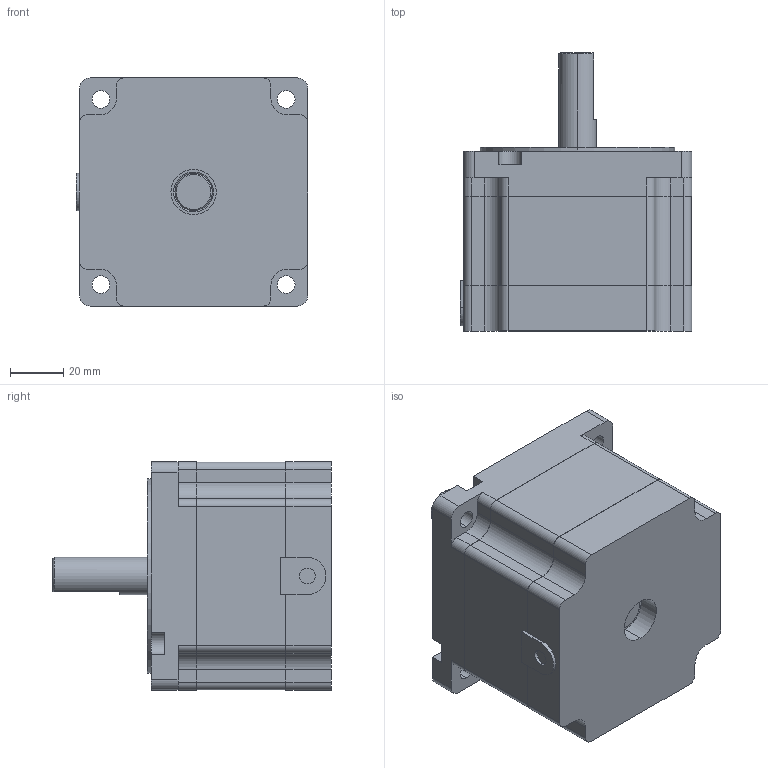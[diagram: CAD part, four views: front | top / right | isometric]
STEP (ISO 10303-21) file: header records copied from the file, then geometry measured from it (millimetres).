
FILE_DESCRIPTION (( 'STEP AP214' ), '1' );
FILE_NAME ('NEMA34-JK86HS68-5904.STEP', '2019-08-23T11:29:19', ( '' ), ( '' ), 'SwSTEP 2.0', 'SolidWorks 2016', '' );
FILE_SCHEMA (( 'AUTOMOTIVE_DESIGN' ));
Length unit declared in the file: millimetre
Products named in the file (1): NEMA34-JK86HS68-5904
Bounding box: 86.8 x 104.5 x 85.6 mm (x, y, z)
Volume: 454444.4 mm3; surface area: 45280.6 mm2
Topology: 2 solids, 2 shells, 148 faces, 403 edges, 266 vertices
Faces by surface type: plane 72, cylinder 66, cone 6, torus 4
Entity records: 6289 total; most frequent: DIRECTION 849, CARTESIAN_POINT 830, ORIENTED_EDGE 806, EDGE_CURVE 403, AXIS2_PLACEMENT_3D 301, VERTEX_POINT 266, LINE 247, VECTOR 247
